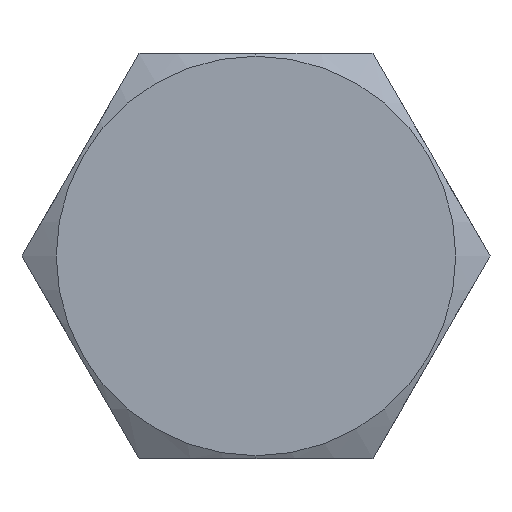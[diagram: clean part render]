
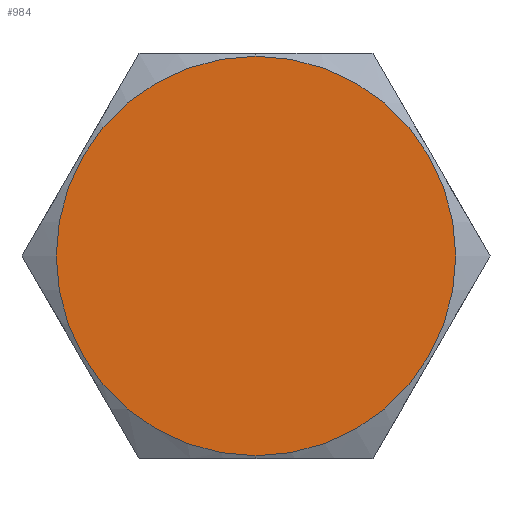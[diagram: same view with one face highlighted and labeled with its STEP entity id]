
A CAD part, left-side view. The second image highlights one B-rep face of the part: STEP entity #984.
In plain terms, the highlighted planar face has unit normal (-1, 0, 0).
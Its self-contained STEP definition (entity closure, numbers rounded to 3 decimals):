
#51 = DIRECTION ( 'NONE',  ( 0., 0., 1. ) ) ;
#473 = AXIS2_PLACEMENT_3D ( 'NONE', #1389, #2734, #51 ) ;
#539 = AXIS2_PLACEMENT_3D ( 'NONE', #3164, #2373, #2645 ) ;
#852 = EDGE_CURVE ( 'NONE', #1979, #1908, #3058, .T. ) ;
#913 = AXIS2_PLACEMENT_3D ( 'NONE', #2468, #2720, #3262 ) ;
#970 = CARTESIAN_POINT ( 'NONE',  ( -6.4, 0., -3.401 ) ) ;
#984 = ADVANCED_FACE ( 'NONE', ( #2523 ), #1153, .T. ) ;
#1140 = ORIENTED_EDGE ( 'NONE', *, *, #852, .T. ) ;
#1153 = PLANE ( 'NONE',  #473 ) ;
#1185 = CARTESIAN_POINT ( 'NONE',  ( -6.4, 0., 3.401 ) ) ;
#1352 = EDGE_LOOP ( 'NONE', ( #2751, #1140 ) ) ;
#1389 = CARTESIAN_POINT ( 'NONE',  ( -6.4, -1.992, -3.45 ) ) ;
#1908 = VERTEX_POINT ( 'NONE', #1185 ) ;
#1979 = VERTEX_POINT ( 'NONE', #970 ) ;
#2373 = DIRECTION ( 'NONE',  ( -1., 0., 0. ) ) ;
#2379 = EDGE_CURVE ( 'NONE', #1908, #1979, #3391, .T. ) ;
#2468 = CARTESIAN_POINT ( 'NONE',  ( -6.4, 0., 0. ) ) ;
#2523 = FACE_OUTER_BOUND ( 'NONE', #1352, .T. ) ;
#2645 = DIRECTION ( 'NONE',  ( 0., 0., 1. ) ) ;
#2720 = DIRECTION ( 'NONE',  ( -1., 0., 0. ) ) ;
#2734 = DIRECTION ( 'NONE',  ( -1., 0., 0. ) ) ;
#2751 = ORIENTED_EDGE ( 'NONE', *, *, #2379, .T. ) ;
#3058 = CIRCLE ( 'NONE', #539, 3.401 ) ;
#3164 = CARTESIAN_POINT ( 'NONE',  ( -6.4, 0., 0. ) ) ;
#3262 = DIRECTION ( 'NONE',  ( 0., 0., 1. ) ) ;
#3391 = CIRCLE ( 'NONE', #913, 3.401 ) ;
